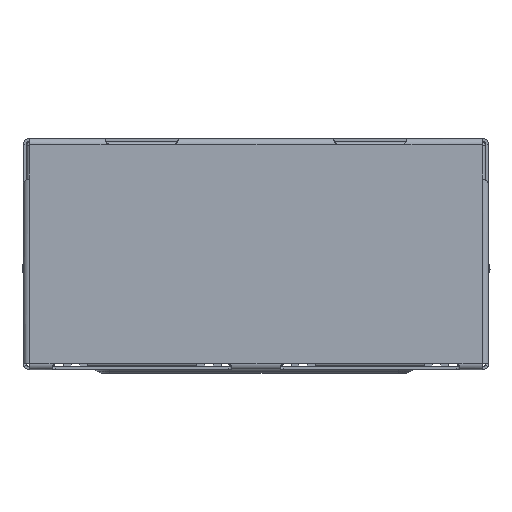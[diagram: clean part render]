
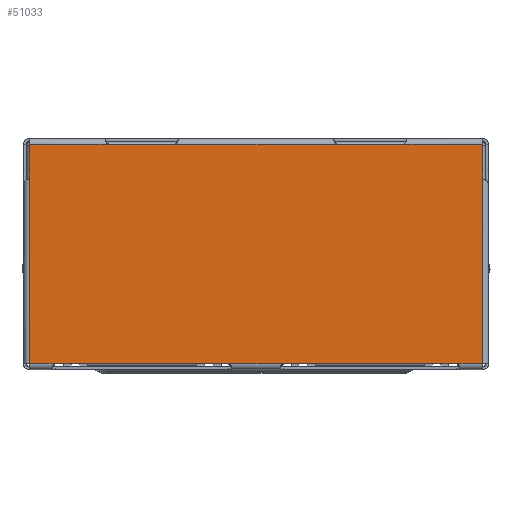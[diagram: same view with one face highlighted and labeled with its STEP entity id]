
A CAD part, front view. The second image highlights one B-rep face of the part: STEP entity #51033.
In plain terms, the highlighted planar face has unit normal (0, 1, 0).
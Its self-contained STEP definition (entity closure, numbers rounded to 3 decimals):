
#44627=DIRECTION('',(-1.,0.,0.));
#44628=VECTOR('',#44627,5.6);
#44629=CARTESIAN_POINT('',(15.7,-6.6,7.6));
#44630=LINE('',#44629,#44628);
#44654=DIRECTION('',(0.,0.,-1.));
#44655=VECTOR('',#44654,2.4);
#44656=CARTESIAN_POINT('',(15.7,-6.6,7.6));
#44657=LINE('',#44656,#44655);
#44680=DIRECTION('',(0.,0.,1.));
#44681=VECTOR('',#44680,12.8);
#44682=CARTESIAN_POINT('',(15.7,-6.6,-7.6));
#44683=LINE('',#44682,#44681);
#44824=DIRECTION('',(1.,0.,0.));
#44825=VECTOR('',#44824,4.4);
#44826=CARTESIAN_POINT('',(5.7,-6.6,7.6));
#44827=LINE('',#44826,#44825);
#45956=DIRECTION('',(1.,0.,0.));
#45957=VECTOR('',#45956,4.4);
#45958=CARTESIAN_POINT('',(-10.1,-6.6,7.6));
#45959=LINE('',#45958,#45957);
#45991=DIRECTION('',(-1.,0.,0.));
#45992=VECTOR('',#45991,11.4);
#45993=CARTESIAN_POINT('',(5.7,-6.6,7.6));
#45994=LINE('',#45993,#45992);
#47228=DIRECTION('',(-1.,0.,0.));
#47229=VECTOR('',#47228,5.6);
#47230=CARTESIAN_POINT('',(-10.1,-6.6,7.6));
#47231=LINE('',#47230,#47229);
#48063=DIRECTION('',(0.,0.,-1.));
#48064=VECTOR('',#48063,2.4);
#48065=CARTESIAN_POINT('',(-15.7,-6.6,7.6));
#48066=LINE('',#48065,#48064);
#48104=DIRECTION('',(0.,0.,-1.));
#48105=VECTOR('',#48104,12.8);
#48106=CARTESIAN_POINT('',(-15.7,-6.6,5.2));
#48107=LINE('',#48106,#48105);
#48238=DIRECTION('',(1.,0.,0.));
#48239=VECTOR('',#48238,1.8);
#48240=CARTESIAN_POINT('',(-15.7,-6.6,-7.6));
#48241=LINE('',#48240,#48239);
#48620=DIRECTION('',(1.,0.,0.));
#48621=VECTOR('',#48620,3.8);
#48622=CARTESIAN_POINT('',(-1.9,-6.6,-7.6));
#48623=LINE('',#48622,#48621);
#48647=DIRECTION('',(1.,0.,0.));
#48648=VECTOR('',#48647,12.);
#48649=CARTESIAN_POINT('',(-13.9,-6.6,-7.6));
#48650=LINE('',#48649,#48648);
#48707=DIRECTION('',(1.,0.,0.));
#48708=VECTOR('',#48707,1.8);
#48709=CARTESIAN_POINT('',(13.9,-6.6,-7.6));
#48710=LINE('',#48709,#48708);
#48953=DIRECTION('',(1.,0.,0.));
#48954=VECTOR('',#48953,12.);
#48955=CARTESIAN_POINT('',(1.9,-6.6,-7.6));
#48956=LINE('',#48955,#48954);
#49697=CARTESIAN_POINT('',(15.7,-6.6,7.6));
#49698=CARTESIAN_POINT('',(10.1,-6.6,7.6));
#49699=VERTEX_POINT('',#49697);
#49700=VERTEX_POINT('',#49698);
#49701=CARTESIAN_POINT('',(5.7,-6.6,7.6));
#49702=VERTEX_POINT('',#49701);
#49703=CARTESIAN_POINT('',(-5.7,-6.6,7.6));
#49704=VERTEX_POINT('',#49703);
#49705=CARTESIAN_POINT('',(-10.1,-6.6,7.6));
#49706=VERTEX_POINT('',#49705);
#49707=CARTESIAN_POINT('',(-15.7,-6.6,7.6));
#49708=VERTEX_POINT('',#49707);
#49709=CARTESIAN_POINT('',(-15.7,-6.6,5.2));
#49710=VERTEX_POINT('',#49709);
#49711=CARTESIAN_POINT('',(-15.7,-6.6,-7.6));
#49712=VERTEX_POINT('',#49711);
#49713=CARTESIAN_POINT('',(-13.9,-6.6,-7.6));
#49714=VERTEX_POINT('',#49713);
#49715=CARTESIAN_POINT('',(-1.9,-6.6,-7.6));
#49716=VERTEX_POINT('',#49715);
#49717=CARTESIAN_POINT('',(1.9,-6.6,-7.6));
#49718=VERTEX_POINT('',#49717);
#49719=CARTESIAN_POINT('',(13.9,-6.6,-7.6));
#49720=VERTEX_POINT('',#49719);
#49721=CARTESIAN_POINT('',(15.7,-6.6,-7.6));
#49722=VERTEX_POINT('',#49721);
#49723=CARTESIAN_POINT('',(15.7,-6.6,5.2));
#49724=VERTEX_POINT('',#49723);
#50998=CARTESIAN_POINT('',(0.,-6.6,0.));
#50999=DIRECTION('',(0.,1.,0.));
#51000=DIRECTION('',(1.,0.,0.));
#51001=AXIS2_PLACEMENT_3D('',#50998,#50999,#51000);
#51002=PLANE('',#51001);
#51004=ORIENTED_EDGE('',*,*,#51003,.T.);
#51006=ORIENTED_EDGE('',*,*,#51005,.F.);
#51008=ORIENTED_EDGE('',*,*,#51007,.T.);
#51010=ORIENTED_EDGE('',*,*,#51009,.F.);
#51012=ORIENTED_EDGE('',*,*,#51011,.T.);
#51014=ORIENTED_EDGE('',*,*,#51013,.T.);
#51016=ORIENTED_EDGE('',*,*,#51015,.T.);
#51018=ORIENTED_EDGE('',*,*,#51017,.T.);
#51020=ORIENTED_EDGE('',*,*,#51019,.T.);
#51022=ORIENTED_EDGE('',*,*,#51021,.T.);
#51024=ORIENTED_EDGE('',*,*,#51023,.T.);
#51026=ORIENTED_EDGE('',*,*,#51025,.T.);
#51028=ORIENTED_EDGE('',*,*,#51027,.T.);
#51030=ORIENTED_EDGE('',*,*,#51029,.F.);
#51031=EDGE_LOOP('',(#51004,#51006,#51008,#51010,#51012,#51014,#51016,#51018,
#51020,#51022,#51024,#51026,#51028,#51030));
#51032=FACE_OUTER_BOUND('',#51031,.F.);
#51033=ADVANCED_FACE('',(#51032),#51002,.T.);
#51003=EDGE_CURVE('',#49699,#49700,#44630,.T.);
#51005=EDGE_CURVE('',#49702,#49700,#44827,.T.);
#51007=EDGE_CURVE('',#49702,#49704,#45994,.T.);
#51009=EDGE_CURVE('',#49706,#49704,#45959,.T.);
#51011=EDGE_CURVE('',#49706,#49708,#47231,.T.);
#51013=EDGE_CURVE('',#49708,#49710,#48066,.T.);
#51015=EDGE_CURVE('',#49710,#49712,#48107,.T.);
#51017=EDGE_CURVE('',#49712,#49714,#48241,.T.);
#51019=EDGE_CURVE('',#49714,#49716,#48650,.T.);
#51021=EDGE_CURVE('',#49716,#49718,#48623,.T.);
#51023=EDGE_CURVE('',#49718,#49720,#48956,.T.);
#51025=EDGE_CURVE('',#49720,#49722,#48710,.T.);
#51027=EDGE_CURVE('',#49722,#49724,#44683,.T.);
#51029=EDGE_CURVE('',#49699,#49724,#44657,.T.);
